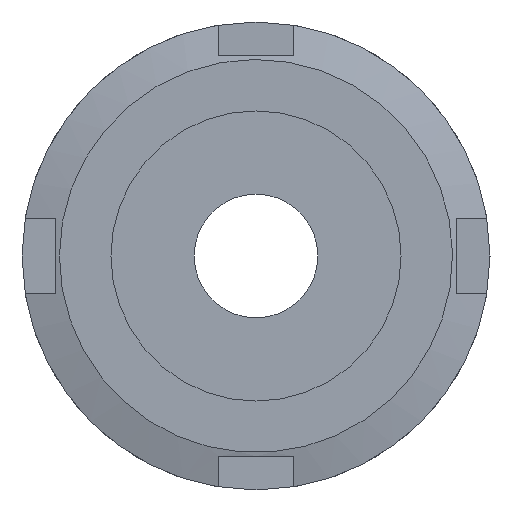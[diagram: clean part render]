
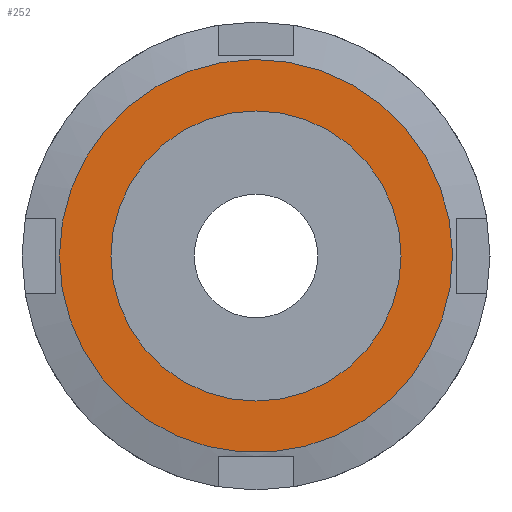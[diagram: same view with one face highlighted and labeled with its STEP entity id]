
A CAD part, left-side view. The second image highlights one B-rep face of the part: STEP entity #252.
In plain terms, the highlighted planar face has unit normal (-1, 0, 0) as drawn and (0, -1, 0) by its records, which use the part's own axes.
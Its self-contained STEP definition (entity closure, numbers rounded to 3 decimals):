
#252 = ADVANCED_FACE( '', ( #348, #349 ), #350, .F. );
#348 = FACE_BOUND( '', #553, .T. );
#349 = FACE_OUTER_BOUND( '', #554, .T. );
#350 = PLANE( '', #555 );
#553 = EDGE_LOOP( '', ( #814 ) );
#554 = EDGE_LOOP( '', ( #815 ) );
#555 = AXIS2_PLACEMENT_3D( '', #816, #817, #818 );
#814 = ORIENTED_EDGE( '', *, *, #1382, .F. );
#815 = ORIENTED_EDGE( '', *, *, #1383, .T. );
#816 = CARTESIAN_POINT( '', ( 10.5, 0., 0. ) );
#817 = DIRECTION( '', ( 0., 1., 0. ) );
#818 = DIRECTION( '', ( 0., 0., 1. ) );
#1382 = EDGE_CURVE( '', #1589, #1589, #1590, .T. );
#1383 = EDGE_CURVE( '', #1591, #1591, #1592, .T. );
#1589 = VERTEX_POINT( '', #2007 );
#1590 = CIRCLE( '', #2008, 7.75 );
#1591 = VERTEX_POINT( '', #2009 );
#1592 = CIRCLE( '', #2010, 10.5 );
#2007 = CARTESIAN_POINT( '', ( 0., 0., -7.75 ) );
#2008 = AXIS2_PLACEMENT_3D( '', #2509, #2510, #2511 );
#2009 = CARTESIAN_POINT( '', ( 0., 0., -10.5 ) );
#2010 = AXIS2_PLACEMENT_3D( '', #2512, #2513, #2514 );
#2509 = CARTESIAN_POINT( '', ( 0., 0., 0. ) );
#2510 = DIRECTION( '', ( 0., -1., 0. ) );
#2511 = DIRECTION( '', ( 0., 0., -1. ) );
#2512 = CARTESIAN_POINT( '', ( 0., 0., 0. ) );
#2513 = DIRECTION( '', ( 0., -1., 0. ) );
#2514 = DIRECTION( '', ( 0., 0., -1. ) );
